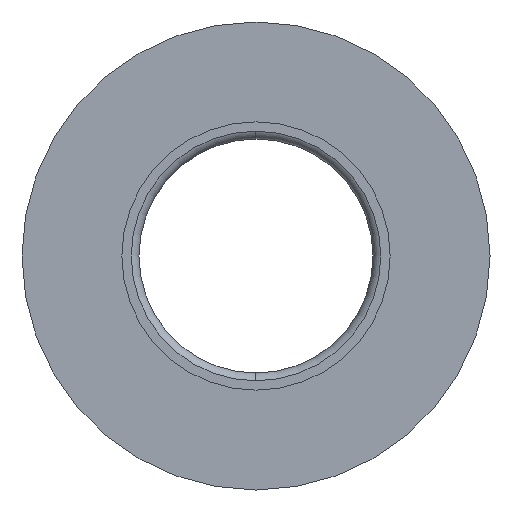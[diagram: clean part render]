
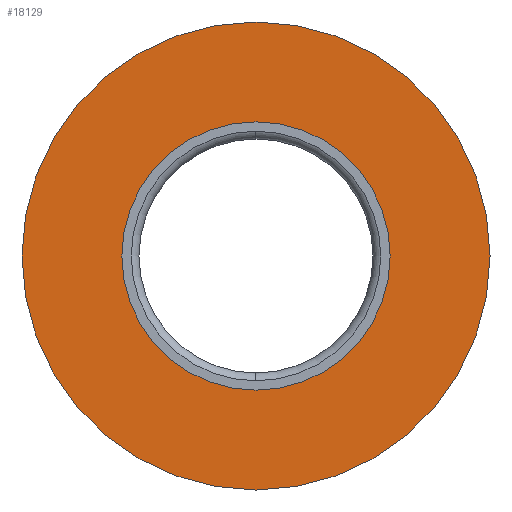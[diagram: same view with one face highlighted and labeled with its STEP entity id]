
A CAD part, left-side view. The second image highlights one B-rep face of the part: STEP entity #18129.
In plain terms, the highlighted planar face has unit normal (-1, 0, 0).
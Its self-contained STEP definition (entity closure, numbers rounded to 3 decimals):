
#17023=CARTESIAN_POINT('',(-52.,0.,-8.6));
#17024=VERTEX_POINT('',#17023);
#17033=CARTESIAN_POINT('',(-52.,0.,8.6));
#17034=VERTEX_POINT('',#17033);
#17035=CARTESIAN_POINT('',(-52.,0.,0.));
#17036=DIRECTION('',(1.0,0.0,0.0));
#17037=DIRECTION('',(0.0,0.0,-1.0));
#17038=AXIS2_PLACEMENT_3D('',#17035,#17036,#17037);
#17039=CIRCLE('',#17038,8.6);
#17040=EDGE_CURVE('',#17034,#17024,#17039,.T.);
#17107=CARTESIAN_POINT('',(-52.,0.,-15.));
#17108=VERTEX_POINT('',#17107);
#17117=CARTESIAN_POINT('',(-52.,0.,15.));
#17118=VERTEX_POINT('',#17117);
#17119=CARTESIAN_POINT('',(-52.,0.,0.));
#17120=DIRECTION('',(1.0,0.0,0.0));
#17121=DIRECTION('',(0.0,0.0,-1.0));
#17122=AXIS2_PLACEMENT_3D('',#17119,#17120,#17121);
#17123=CIRCLE('',#17122,15.);
#17124=EDGE_CURVE('',#17108,#17118,#17123,.T.);
#18024=CARTESIAN_POINT('',(-52.,0.,0.));
#18025=DIRECTION('',(1.0,0.0,0.0));
#18026=DIRECTION('',(0.0,0.0,-1.0));
#18027=AXIS2_PLACEMENT_3D('',#18024,#18025,#18026);
#18028=CIRCLE('',#18027,15.);
#18029=EDGE_CURVE('',#17118,#17108,#18028,.T.);
#18106=CARTESIAN_POINT('',(-52.,0.,0.));
#18107=DIRECTION('',(1.0,0.0,0.0));
#18108=DIRECTION('',(0.0,0.0,-1.0));
#18109=AXIS2_PLACEMENT_3D('',#18106,#18107,#18108);
#18110=CIRCLE('',#18109,8.6);
#18111=EDGE_CURVE('',#17024,#17034,#18110,.T.);
#18116=CARTESIAN_POINT('',(-52.,0.,-11.8));
#18117=DIRECTION('',(-1.0,0.0,0.0));
#18118=DIRECTION('',(0.0,1.0,0.0));
#18119=AXIS2_PLACEMENT_3D('',#18116,#18117,#18118);
#18120=PLANE('',#18119);
#18121=ORIENTED_EDGE('',*,*,#17124,.F.);
#18122=ORIENTED_EDGE('',*,*,#18029,.F.);
#18123=EDGE_LOOP('',(#18121,#18122));
#18124=FACE_OUTER_BOUND('',#18123,.T.);
#18125=ORIENTED_EDGE('',*,*,#18111,.T.);
#18126=ORIENTED_EDGE('',*,*,#17040,.T.);
#18127=EDGE_LOOP('',(#18125,#18126));
#18128=FACE_BOUND('',#18127,.T.);
#18129=ADVANCED_FACE('',(#18124,#18128),#18120,.T.);
